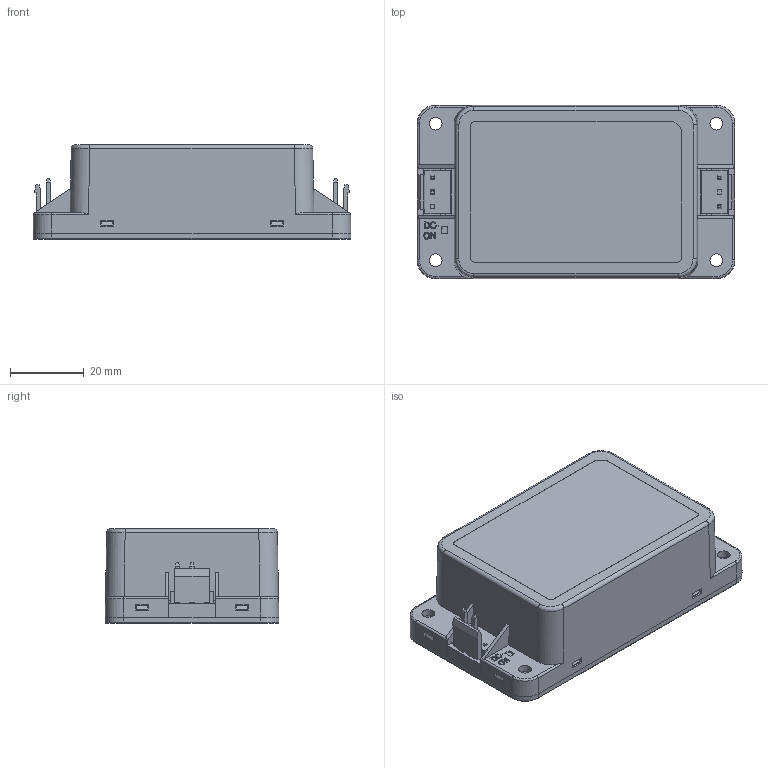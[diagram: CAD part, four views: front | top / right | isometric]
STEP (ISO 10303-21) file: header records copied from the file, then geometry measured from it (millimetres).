
FILE_DESCRIPTION(/* description */ (''),/* implementation_level */ '2;1');
FILE_NAME(/* name */ 'C:\Users\Calliope\Desktop\轉檔暫存用\AMF-30CD.stp',/* time_stamp */ '2024-03-01T18:49:03+08:00',/* author */ ('Calliope'),/* organization */ (''),/* preprocessor_version */ 'ST-DEVELOPER v16.1',/* originating_system */ 'Autodesk Inventor 2016',/* authorisation */ '');
FILE_SCHEMA (('AUTOMOTIVE_DESIGN { 1 0 10303 214 3 1 1 }'));
Length unit declared in the file: millimetre
Products named in the file (1): AMF-30 Chassis Mounting(TRACO)(TMB 30C)
Bounding box: 86 x 47 x 25.5 mm (x, y, z)
Volume: 69607.4 mm3; surface area: 25269.3 mm2
Topology: 1 solids, 1 shells, 623 faces, 1770 edges, 1143 vertices
Faces by surface type: plane 453, cylinder 116, bspline 50, torus 4
Full cylindrical faces by diameter (mm): 1.2 x3, 3.5 x8
Entity records: 21561 total; most frequent: CARTESIAN_POINT 4852, ORIENTED_EDGE 3506, DIRECTION 3040, EDGE_CURVE 1753, LINE 1398, VECTOR 1398, VERTEX_POINT 1137, AXIS2_PLACEMENT_3D 821
